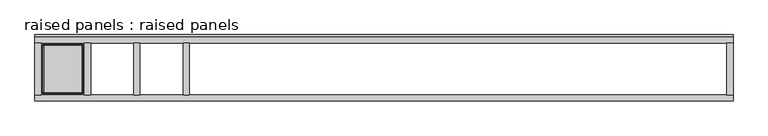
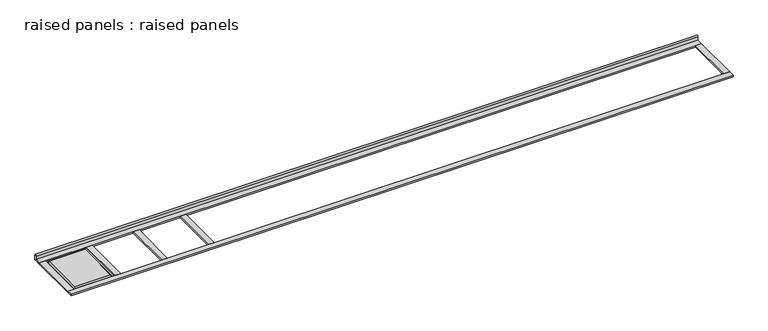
"""IFC4 building model written with IfcOpenShell, lengths in millimetres: furniture geometry, raised panels : raised panels."""

from ifc_helpers import new_model, si_unit, point, frame, frame_2d, origin, origin_with_axes, place, context, project, spatial, polyline, circle_curve, ellipse_curve, trimmed, segment, composite_curve, outline, extrude, source, transform, mapped, element, save
from ifc_brep_helpers import plane_surface, revolved_surface, advanced_brep


def raised_panels_raised_panels_9353435f(model_context):
    return source(origin(), model_context, "Body", "SolidModel", [
        advanced_brep(
        [(572.4071429, 209.55, 19.05), (572.4071429, 781.05, 19.05), (107.95, 781.05, 19.05), (107.95, 209.55, 19.05), (604.1571429, 812.8, 0.0), (604.1571429, 177.8, 0.0), (76.2, 177.8, 0.0), (76.2, 812.8, 0.0), (76.2, 812.8, 6.35), (604.1571429, 812.8, 6.35), (76.2, 177.8, 6.35), (604.1571429, 177.8, 6.35), (585.1071429, 196.85, 6.35), (585.1071429, 793.75, 6.35), (95.25, 793.75, 6.35), (95.25, 196.85, 6.35)],
        [
            (0, 1),
            (1, 2),
            (2, 3),
            (3, 0),
            (4, 5),
            (5, 6),
            (6, 7),
            (7, 4),
            (7, 8),
            (8, 9),
            (9, 4),
            (6, 10),
            (10, 8),
            (5, 11),
            (11, 10),
            (9, 11),
            (12, 13),
            (13, 1, ellipse_curve(frame((585.1071429, 793.75, 19.05), z_axis=(-0.7071067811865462, 0.7071067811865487, 0.0), x_axis=(-0.7071067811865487, -0.7071067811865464, 0.0)), 17.9605122, 12.7)),
            (0, 12, ellipse_curve(frame((585.1071429, 196.85, 19.05), z_axis=(-0.7071067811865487, -0.7071067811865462, 0.0), x_axis=(0.7071067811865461, -0.7071067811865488, 0.0)), 17.9605122, 12.7)),
            (13, 14),
            (14, 2, ellipse_curve(frame((95.25, 793.75, 19.05), z_axis=(-0.7071067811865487, -0.7071067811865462, 0.0), x_axis=(0.7071067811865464, -0.7071067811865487, 0.0)), 17.9605122, 12.7)),
            (14, 15),
            (15, 3, ellipse_curve(frame((95.25, 196.85, 19.05), z_axis=(0.7071067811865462, -0.7071067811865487, 0.0), x_axis=(0.7071067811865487, 0.7071067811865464, 0.0)), 17.9605122, 12.7)),
            (15, 12),
        ],
        [
            plane_surface(frame((604.1571429, 812.8, 19.05), z_axis=(0.0, 0.0, 1.0), x_axis=(-1.0, 0.0, 0.0))),
            plane_surface(frame((604.1571429, 812.8, 0.0), z_axis=(0.0, 0.0, -1.0), x_axis=(1.0, 0.0, 0.0))),
            plane_surface(frame((604.1571429, 812.8, 19.05), z_axis=(0.0, 1.0, 0.0), x_axis=(0.0, 0.0, -1.0))),
            plane_surface(frame((76.2, 812.8, 19.05), z_axis=(-1.0, 0.0, 0.0), x_axis=(0.0, 0.0, -1.0))),
            plane_surface(frame((76.2, 177.8, 19.05), z_axis=(0.0, -1.0, 0.0), x_axis=(0.0, 0.0, -1.0))),
            plane_surface(frame((604.1571429, 177.8, 19.05), z_axis=(1.0, 0.0, 0.0), x_axis=(0.0, 0.0, -1.0))),
            revolved_surface(polyline([(572.4071428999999, 184.15000002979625, 19.05), (572.4071428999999, 806.4499999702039, 19.05)]), (585.1071429, 177.8, 19.05), (0.0, -1.0, 0.0)),
            revolved_surface(polyline([(597.8071428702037, 781.05, 19.05), (82.55000002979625, 781.05, 19.05)]), (604.1571429, 793.75, 19.05), (1.0, 0.0, 0.0)),
            revolved_surface(polyline([(107.95, 806.4499999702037, 19.05), (107.95, 184.15000002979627, 19.05)]), (95.25, 812.8, 19.05), (0.0, 1.0, 0.0)),
            revolved_surface(polyline([(82.55000002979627, 209.54999999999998, 19.05), (597.8071428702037, 209.54999999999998, 19.05)]), (76.2, 196.85, 19.05), (-1.0, 0.0, 0.0)),
            plane_surface(frame((95.25, 196.85, 6.35), z_axis=(0.0, 0.0, 1.0), x_axis=(1.0, 0.0, 0.0))),
        ],
        [
            (0, [[1, 2, 3, 4]]),
            (1, [[5, 6, 7, 8]]),
            (2, [[-8, 9, 10, 11]]),
            (3, [[-7, 12, 13, -9]]),
            (4, [[-6, 14, 15, -12]]),
            (5, [[-5, -11, 16, -14]]),
            (6, [[17, 18, -1, 19]]),
            (7, [[-18, 20, 21, -2]]),
            (8, [[-21, 22, 23, -3]]),
            (9, [[-19, -4, -23, 24]]),
            (10, [[-10, -13, -15, -16], [-17, -24, -22, -20]]),
        ],
    ),
        extrude(outline(polyline([(1888.6714286, 177.8), (1812.4714286, 177.8), (1812.4714286, 812.8), (1888.6714286, 812.8), (1888.6714286, 177.8)])), origin_with_axes(), (0.0, 0.0, 1.0), 19.05),
        extrude(outline(polyline([(1284.5142857, 177.8), (1208.3142857, 177.8), (1208.3142857, 812.8), (1284.5142857, 812.8), (1284.5142857, 177.8)])), origin_with_axes(), (0.0, 0.0, 1.0), 19.05),
        extrude(outline(polyline([(680.3571429, 177.8), (604.1571429, 177.8), (604.1571429, 812.8), (680.3571429, 812.8), (680.3571429, 177.8)])), origin_with_axes(), (0.0, 0.0, 1.0), 19.05),
        extrude(outline(polyline([(8534.4, 177.8), (8458.2, 177.8), (8458.2, 812.8), (8534.4, 812.8), (8534.4, 177.8)])), origin_with_axes(), (0.0, 0.0, 1.0), 19.05),
        extrude(outline(polyline([(76.2, 177.8), (0.0, 177.8), (0.0, 812.8), (76.2, 812.8), (76.2, 177.8)])), origin_with_axes(), (0.0, 0.0, 1.0), 19.05),
        extrude(outline(polyline([(8534.4, 177.8), (8534.4, 101.6), (0.0, 101.6), (0.0, 177.8), (8534.4, 177.8)])), origin_with_axes(), (0.0, 0.0, 1.0), 19.05),
        extrude(outline(polyline([(8534.4, 889.0), (8534.4, 812.8), (0.0, 812.8), (0.0, 889.0), (8534.4, 889.0)])), origin_with_axes(), (0.0, 0.0, 1.0), 19.05),
        extrude(outline(composite_curve([segment(polyline([(914.4, 63.5), (914.4, 0.0), (889.0, 0.0), (889.0, 63.5)]), True, "CONTINUOUS"), segment(trimmed(circle_curve(frame_2d((901.7, 63.5)), 12.7), [point((889.0, 63.5))], [point((914.4, 63.5))], False, "CARTESIAN"), True, "CONTINUOUS")], self_intersect=False)), frame((0.0, 0.0, 0.0), z_axis=(1.0, 0.0, 0.0), x_axis=(0.0, 1.0, 0.0)), (0.0, 0.0, 1.0), 8534.4),
    ])


if __name__ == "__main__":
    model = new_model("IFC4")
    model_context = context("Model", 3, world=origin())
    ifc_project = project(units=[si_unit("LENGTHUNIT", "METRE", prefix="MILLI")], contexts=[model_context])
    site = spatial("IfcSite", under=ifc_project)
    building = spatial("IfcBuilding", under=site)
    placement = place(None, origin())
    raised_panels_raised_panels_shape = raised_panels_raised_panels_9353435f(model_context)
    element("IfcFurniture", 1, ObjectType="raised panels : raised panels", at=placement, inside=building, context=model_context, shape_type="MappedRepresentation", body=[
        mapped(raised_panels_raised_panels_shape, transform((0.0, 0.0, 0.0), x_axis=(1.0, 0.0, 0.0), y_axis=(0.0, 1.0, 0.0), z_axis=(0.0, 0.0, 1.0))),
    ])
    save(model, "model.ifc")
